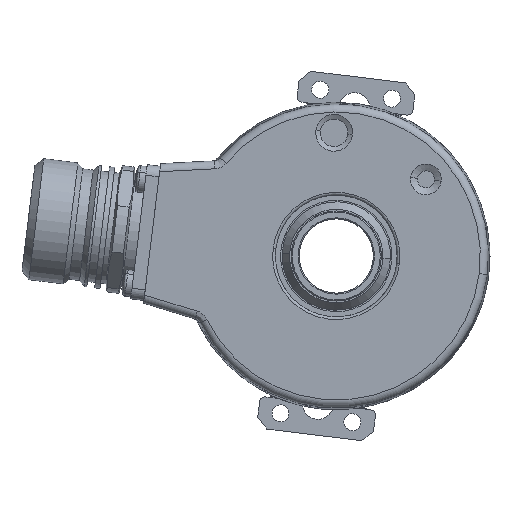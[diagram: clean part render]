
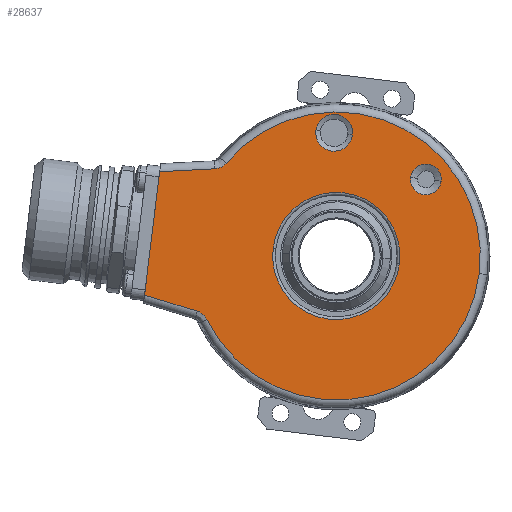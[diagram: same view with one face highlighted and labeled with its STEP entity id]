
A CAD part, left-side view. The second image highlights one B-rep face of the part: STEP entity #28637.
In plain terms, the highlighted planar face has unit normal (-1, 0, 0).
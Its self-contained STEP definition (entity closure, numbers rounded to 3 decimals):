
#170 = CARTESIAN_POINT ( 'NONE',  ( -19., 20.777, 17.512 ) ) ;
#8597 = CARTESIAN_POINT ( 'NONE',  ( -19., 0., 0. ) ) ;
#8598 = CIRCLE ( 'NONE', #8612, 12. ) ;
#8610 = DIRECTION ( 'NONE',  ( 0., -0.993, -0.122 ) ) ;
#8611 = DIRECTION ( 'NONE',  ( 1., 0., 0. ) ) ;
#8612 = AXIS2_PLACEMENT_3D ( 'NONE', #8597, #8611, #8610 ) ;
#9290 = CARTESIAN_POINT ( 'NONE',  ( -19., -11.911, -1.462 ) ) ;
#9441 = CARTESIAN_POINT ( 'NONE',  ( -19., 11.911, 1.462 ) ) ;
#16692 = CARTESIAN_POINT ( 'NONE',  ( -19., -26.97, -3.312 ) ) ;
#21923 = DIRECTION ( 'NONE',  ( 0., -0.993, -0.122 ) ) ;
#21924 = DIRECTION ( 'NONE',  ( 1., 0., 0. ) ) ;
#21926 = CARTESIAN_POINT ( 'NONE',  ( -19., -16.919, 14.45 ) ) ;
#21927 = AXIS2_PLACEMENT_3D ( 'NONE', #21926, #21924, #21923 ) ;
#21928 = CARTESIAN_POINT ( 'NONE',  ( -19., 0.406, 23.246 ) ) ;
#21982 = DIRECTION ( 'NONE',  ( 0., -0.993, -0.122 ) ) ;
#21983 = DIRECTION ( 'NONE',  ( 1., 0., 0. ) ) ;
#21984 = AXIS2_PLACEMENT_3D ( 'NONE', #22026, #21983, #21982 ) ;
#21985 = CIRCLE ( 'NONE', #21984, 12. ) ;
#21990 = CIRCLE ( 'NONE', #21927, 2.899 ) ;
#22022 = DIRECTION ( 'NONE',  ( 0., -0.993, -0.122 ) ) ;
#22023 = DIRECTION ( 'NONE',  ( 1., 0., 0. ) ) ;
#22024 = AXIS2_PLACEMENT_3D ( 'NONE', #21928, #22023, #22022 ) ;
#22025 = CIRCLE ( 'NONE', #22024, 3.466 ) ;
#22026 = CARTESIAN_POINT ( 'NONE',  ( -19., 0., 0. ) ) ;
#22644 = CARTESIAN_POINT ( 'NONE',  ( -19., 24.396, -11.966 ) ) ;
#22922 = CARTESIAN_POINT ( 'NONE',  ( -19., 0., 0. ) ) ;
#22924 = FACE_OUTER_BOUND ( 'NONE', #28508, .T. ) ;
#22926 = FACE_BOUND ( 'NONE', #28504, .T. ) ;
#22928 = FACE_BOUND ( 'NONE', #28500, .T. ) ;
#22939 = PLANE ( 'NONE',  #23118 ) ;
#22953 = B_SPLINE_CURVE_WITH_KNOTS ( 'NONE', 3,
 ( #23048, #23047, #23099, #23098, #23097, #23096, #23095, #23094, #23093, #23092 ),
 .UNSPECIFIED., .F., .F.,
 ( 4, 2, 2, 2, 4 ),
 ( 0., 0.001, 0.001, 0.002, 0.002 ),
 .UNSPECIFIED. ) ;
#22955 = AXIS2_PLACEMENT_3D ( 'NONE', #23052, #23051, #23050 ) ;
#22978 = CARTESIAN_POINT ( 'NONE',  ( -19., 33.31, 15.905 ) ) ;
#22979 = DIRECTION ( 'NONE',  ( 0., 0.999, -0.052 ) ) ;
#22980 = VECTOR ( 'NONE', #22979, 1000. ) ;
#22982 = CARTESIAN_POINT ( 'NONE',  ( -19., 33.046, 15.919 ) ) ;
#22983 = LINE ( 'NONE', #22982, #22980 ) ;
#23014 = CARTESIAN_POINT ( 'NONE',  ( -19., 26.213, -10.418 ) ) ;
#23015 = DIRECTION ( 'NONE',  ( 0., -0.956, -0.292 ) ) ;
#23016 = VECTOR ( 'NONE', #23015, 1000. ) ;
#23017 = VERTEX_POINT ( 'NONE', #16692 ) ;
#23018 = CARTESIAN_POINT ( 'NONE',  ( -19., 25.556, -10.618 ) ) ;
#23020 = LINE ( 'NONE', #23018, #23016 ) ;
#23047 = CARTESIAN_POINT ( 'NONE',  ( -19., 24.487, -11.781 ) ) ;
#23048 = CARTESIAN_POINT ( 'NONE',  ( -19., 24.396, -11.966 ) ) ;
#23050 = DIRECTION ( 'NONE',  ( 0., -0.993, -0.122 ) ) ;
#23051 = DIRECTION ( 'NONE',  ( -1., 0., 0. ) ) ;
#23052 = CARTESIAN_POINT ( 'NONE',  ( -19., 0., 0. ) ) ;
#23053 = CARTESIAN_POINT ( 'NONE',  ( -19., 36.168, -7.374 ) ) ;
#23054 = DIRECTION ( 'NONE',  ( 0., -0.122, 0.993 ) ) ;
#23056 = VECTOR ( 'NONE', #23054, 1000. ) ;
#23058 = CARTESIAN_POINT ( 'NONE',  ( -19., 36.354, -8.886 ) ) ;
#23059 = LINE ( 'NONE', #23058, #23056 ) ;
#23082 = VERTEX_POINT ( 'NONE', #170 ) ;
#23083 = EDGE_CURVE ( 'NONE', #23017, #23082, #46388, .T. ) ;
#23088 = CIRCLE ( 'NONE', #22955, 27.173 ) ;
#23092 = CARTESIAN_POINT ( 'NONE',  ( -19., 26.213, -10.418 ) ) ;
#23093 = CARTESIAN_POINT ( 'NONE',  ( -19., 26.016, -10.478 ) ) ;
#23094 = CARTESIAN_POINT ( 'NONE',  ( -19., 25.828, -10.557 ) ) ;
#23095 = CARTESIAN_POINT ( 'NONE',  ( -19., 25.471, -10.753 ) ) ;
#23096 = CARTESIAN_POINT ( 'NONE',  ( -19., 25.3, -10.87 ) ) ;
#23097 = CARTESIAN_POINT ( 'NONE',  ( -19., 24.989, -11.135 ) ) ;
#23098 = CARTESIAN_POINT ( 'NONE',  ( -19., 24.848, -11.282 ) ) ;
#23099 = CARTESIAN_POINT ( 'NONE',  ( -19., 24.597, -11.605 ) ) ;
#23109 = FACE_BOUND ( 'NONE', #28651, .T. ) ;
#23118 = AXIS2_PLACEMENT_3D ( 'NONE', #22922, #23120, #23119 ) ;
#23119 = DIRECTION ( 'NONE',  ( 0., -0.993, -0.122 ) ) ;
#23120 = DIRECTION ( 'NONE',  ( 1., 0., 0. ) ) ;
#23201 = B_SPLINE_CURVE_WITH_KNOTS ( 'NONE', 3,
 ( #23440, #23449, #23287, #23453, #23340, #23430, #23280, #23279, #23339, #23432 ),
 .UNSPECIFIED., .F., .F.,
 ( 4, 2, 2, 2, 4 ),
 ( 0., 0.001, 0.001, 0.002, 0.002 ),
 .UNSPECIFIED. ) ;
#23279 = CARTESIAN_POINT ( 'NONE',  ( -19., 21.056, 17.213 ) ) ;
#23280 = CARTESIAN_POINT ( 'NONE',  ( -19., 21.376, 16.962 ) ) ;
#23287 = CARTESIAN_POINT ( 'NONE',  ( -19., 22.503, 16.493 ) ) ;
#23339 = CARTESIAN_POINT ( 'NONE',  ( -19., 20.91, 17.355 ) ) ;
#23340 = CARTESIAN_POINT ( 'NONE',  ( -19., 21.917, 16.669 ) ) ;
#23430 = CARTESIAN_POINT ( 'NONE',  ( -19., 21.552, 16.851 ) ) ;
#23431 = CARTESIAN_POINT ( 'NONE',  ( -19., 22.914, 16.45 ) ) ;
#23432 = CARTESIAN_POINT ( 'NONE',  ( -19., 20.777, 17.512 ) ) ;
#23440 = CARTESIAN_POINT ( 'NONE',  ( -19., 22.914, 16.45 ) ) ;
#23449 = CARTESIAN_POINT ( 'NONE',  ( -19., 22.708, 16.461 ) ) ;
#23453 = CARTESIAN_POINT ( 'NONE',  ( -19., 22.108, 16.597 ) ) ;
#24688 = EDGE_CURVE ( 'NONE', #24882, #24823, #8598, .T. ) ;
#24823 = VERTEX_POINT ( 'NONE', #9441 ) ;
#24882 = VERTEX_POINT ( 'NONE', #9290 ) ;
#28155 = CARTESIAN_POINT ( 'NONE',  ( -19., 0.406, 23.246 ) ) ;
#28156 = CIRCLE ( 'NONE', #28160, 3.466 ) ;
#28158 = DIRECTION ( 'NONE',  ( 0., -0.993, -0.122 ) ) ;
#28159 = DIRECTION ( 'NONE',  ( 1., 0., 0. ) ) ;
#28160 = AXIS2_PLACEMENT_3D ( 'NONE', #28155, #28159, #28158 ) ;
#28498 = ORIENTED_EDGE ( 'NONE', *, *, #28499, .T. ) ;
#28499 = EDGE_CURVE ( 'NONE', #39069, #39072, #21990, .T. ) ;
#28500 = EDGE_LOOP ( 'NONE', ( #28501, #28502 ) ) ;
#28501 = ORIENTED_EDGE ( 'NONE', *, *, #38632, .T. ) ;
#28502 = ORIENTED_EDGE ( 'NONE', *, *, #28503, .T. ) ;
#28503 = EDGE_CURVE ( 'NONE', #39068, #39243, #22025, .T. ) ;
#28504 = EDGE_LOOP ( 'NONE', ( #28505, #28506 ) ) ;
#28505 = ORIENTED_EDGE ( 'NONE', *, *, #24688, .T. ) ;
#28506 = ORIENTED_EDGE ( 'NONE', *, *, #28507, .T. ) ;
#28507 = EDGE_CURVE ( 'NONE', #24823, #24882, #21985, .T. ) ;
#28508 = EDGE_LOOP ( 'NONE', ( #28671, #28638, #28643, #28646, #28649, #28614, #28658 ) ) ;
#28613 = VERTEX_POINT ( 'NONE', #22644 ) ;
#28614 = ORIENTED_EDGE ( 'NONE', *, *, #28655, .T. ) ;
#28637 = ADVANCED_FACE ( 'NONE', ( #23109, #22928, #22926, #22924 ), #22939, .F. ) ;
#28638 = ORIENTED_EDGE ( 'NONE', *, *, #28640, .T. ) ;
#28640 = EDGE_CURVE ( 'NONE', #28673, #28642, #22983, .T. ) ;
#28642 = VERTEX_POINT ( 'NONE', #22978 ) ;
#28643 = ORIENTED_EDGE ( 'NONE', *, *, #28644, .F. ) ;
#28644 = EDGE_CURVE ( 'NONE', #28645, #28642, #23059, .T. ) ;
#28645 = VERTEX_POINT ( 'NONE', #23053 ) ;
#28646 = ORIENTED_EDGE ( 'NONE', *, *, #28647, .T. ) ;
#28647 = EDGE_CURVE ( 'NONE', #28645, #28648, #23020, .T. ) ;
#28648 = VERTEX_POINT ( 'NONE', #23014 ) ;
#28649 = ORIENTED_EDGE ( 'NONE', *, *, #28650, .F. ) ;
#28650 = EDGE_CURVE ( 'NONE', #28613, #28648, #22953, .T. ) ;
#28651 = EDGE_LOOP ( 'NONE', ( #28653, #28498 ) ) ;
#28653 = ORIENTED_EDGE ( 'NONE', *, *, #38976, .T. ) ;
#28655 = EDGE_CURVE ( 'NONE', #28613, #23017, #23088, .T. ) ;
#28658 = ORIENTED_EDGE ( 'NONE', *, *, #23083, .T. ) ;
#28671 = ORIENTED_EDGE ( 'NONE', *, *, #28672, .F. ) ;
#28672 = EDGE_CURVE ( 'NONE', #28673, #23082, #23201, .T. ) ;
#28673 = VERTEX_POINT ( 'NONE', #23431 ) ;
#35305 = DIRECTION ( 'NONE',  ( 0., -0.993, -0.122 ) ) ;
#35306 = DIRECTION ( 'NONE',  ( 1., 0., 0. ) ) ;
#35308 = AXIS2_PLACEMENT_3D ( 'NONE', #35386, #35306, #35305 ) ;
#35386 = CARTESIAN_POINT ( 'NONE',  ( -19., -16.919, 14.45 ) ) ;
#35388 = CIRCLE ( 'NONE', #35308, 2.899 ) ;
#37149 = CARTESIAN_POINT ( 'NONE',  ( -19., -19.796, 14.097 ) ) ;
#37162 = CARTESIAN_POINT ( 'NONE',  ( -19., -3.034, 22.824 ) ) ;
#37169 = CARTESIAN_POINT ( 'NONE',  ( -19., -14.042, 14.804 ) ) ;
#38632 = EDGE_CURVE ( 'NONE', #39243, #39068, #28156, .T. ) ;
#38976 = EDGE_CURVE ( 'NONE', #39072, #39069, #35388, .T. ) ;
#39068 = VERTEX_POINT ( 'NONE', #37162 ) ;
#39069 = VERTEX_POINT ( 'NONE', #37149 ) ;
#39072 = VERTEX_POINT ( 'NONE', #37169 ) ;
#39243 = VERTEX_POINT ( 'NONE', #41145 ) ;
#41145 = CARTESIAN_POINT ( 'NONE',  ( -19., 3.846, 23.669 ) ) ;
#46361 = DIRECTION ( 'NONE',  ( -1., 0., 0. ) ) ;
#46367 = CARTESIAN_POINT ( 'NONE',  ( -19., 0., 0. ) ) ;
#46382 = AXIS2_PLACEMENT_3D ( 'NONE', #46367, #46361, #46403 ) ;
#46388 = CIRCLE ( 'NONE', #46382, 27.173 ) ;
#46403 = DIRECTION ( 'NONE',  ( 0., -0.993, -0.122 ) ) ;
